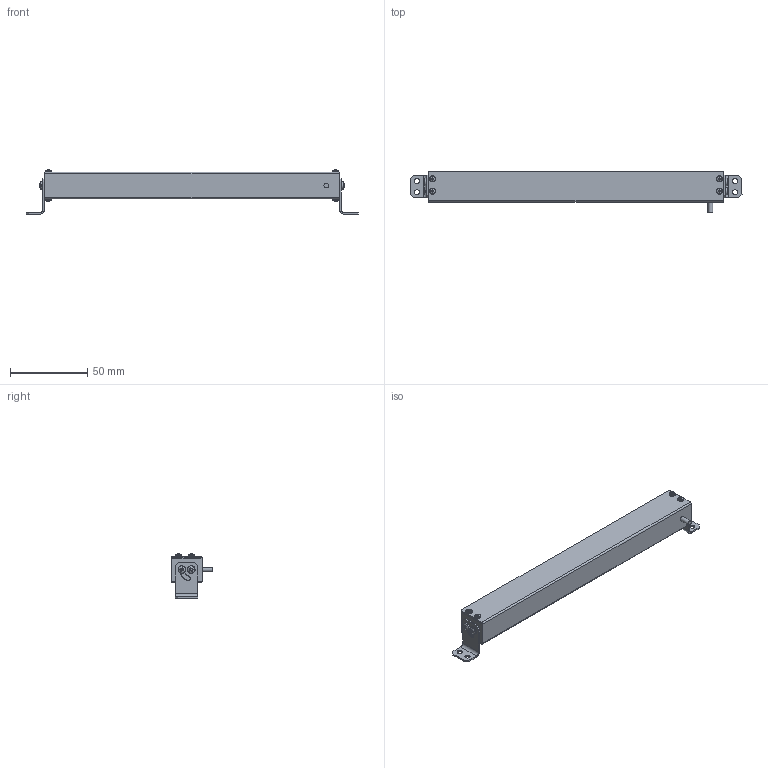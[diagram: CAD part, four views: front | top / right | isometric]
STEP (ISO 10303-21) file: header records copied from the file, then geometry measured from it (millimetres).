
FILE_DESCRIPTION(/* description */ (''),/* implementation_level */ '2;1');
FILE_NAME(/* name */ 'C:\#Vault-WorkDir\Konstruktions-Dokumente\Projekte\Zubehör allgemein\Falcon Beleuchtungen\153-13704_LB 180 xD-24-KFL5.stp',/* time_stamp */ '2022-03-22T12:14:16+01:00',/* author */ ('SensoPart'),/* organization */ ('SensoPart'),/* preprocessor_version */ 'ST-DEVELOPER v18.1',/* originating_system */ 'Autodesk Inventor 2022',/* authorisation */ '');
FILE_SCHEMA (('AUTOMOTIVE_DESIGN { 1 0 10303 214 3 1 1 }'));
Length unit declared in the file: millimetre
Products named in the file (1): GH-ENG-0026541_Vereinfachen_1
Bounding box: 215 x 27 x 28.69 mm (x, y, z)
Volume: 65643.8 mm3; surface area: 19754.3 mm2
Topology: 7 solids, 7 shells, 523 faces, 1448 edges, 963 vertices
Faces by surface type: plane 213, cone 162, cylinder 84, torus 52, sphere 12
Full cylindrical faces by diameter (mm): 2 x8, 2.275 x4, 2.5 x8, 2.8 x1, 3.1 x1, 3.3 x4, 3.8 x2
Entity records: 18684 total; most frequent: CARTESIAN_POINT 4831, ORIENTED_EDGE 2876, DIRECTION 2770, EDGE_CURVE 1438, AXIS2_PLACEMENT_3D 1110, VERTEX_POINT 962, EDGE_LOOP 584, CIRCLE 570
